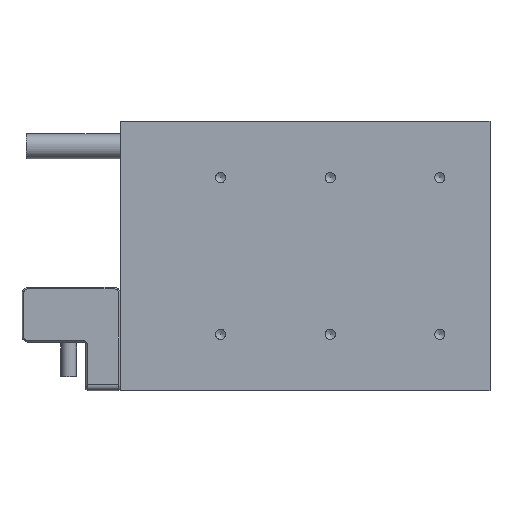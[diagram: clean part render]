
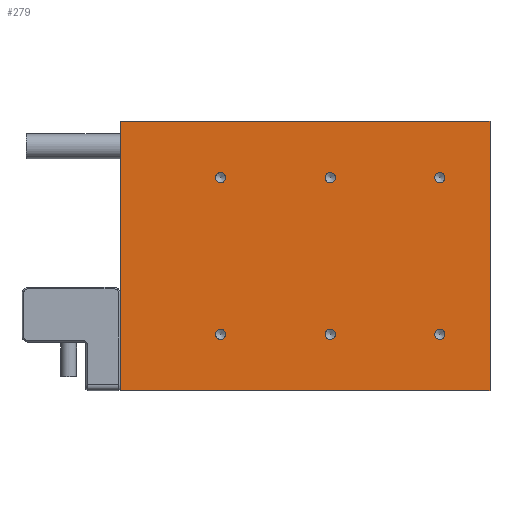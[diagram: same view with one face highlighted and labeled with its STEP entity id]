
A CAD part, front view. The second image highlights one B-rep face of the part: STEP entity #279.
In plain terms, the highlighted planar face has unit normal (0, -1, 0).
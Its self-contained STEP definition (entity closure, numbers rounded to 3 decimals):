
#279 = ADVANCED_FACE( '', ( #568, #569, #570, #571, #572, #573, #574 ), #575, .T. );
#568 = FACE_BOUND( '', #856, .T. );
#569 = FACE_BOUND( '', #857, .T. );
#570 = FACE_BOUND( '', #858, .T. );
#571 = FACE_BOUND( '', #859, .T. );
#572 = FACE_BOUND( '', #860, .T. );
#573 = FACE_BOUND( '', #861, .T. );
#574 = FACE_OUTER_BOUND( '', #862, .T. );
#575 = PLANE( '', #863 );
#856 = EDGE_LOOP( '', ( #1401 ) );
#857 = EDGE_LOOP( '', ( #1402 ) );
#858 = EDGE_LOOP( '', ( #1403 ) );
#859 = EDGE_LOOP( '', ( #1404 ) );
#860 = EDGE_LOOP( '', ( #1405 ) );
#861 = EDGE_LOOP( '', ( #1406 ) );
#862 = EDGE_LOOP( '', ( #1407, #1408, #1409, #1410 ) );
#863 = AXIS2_PLACEMENT_3D( '', #1411, #1412, #1413 );
#1401 = ORIENTED_EDGE( '', *, *, #1547, .T. );
#1402 = ORIENTED_EDGE( '', *, *, #1582, .T. );
#1403 = ORIENTED_EDGE( '', *, *, #1612, .T. );
#1404 = ORIENTED_EDGE( '', *, *, #1666, .T. );
#1405 = ORIENTED_EDGE( '', *, *, #1655, .T. );
#1406 = ORIENTED_EDGE( '', *, *, #1675, .T. );
#1407 = ORIENTED_EDGE( '', *, *, #1642, .T. );
#1408 = ORIENTED_EDGE( '', *, *, #1614, .T. );
#1409 = ORIENTED_EDGE( '', *, *, #1517, .T. );
#1410 = ORIENTED_EDGE( '', *, *, #1601, .T. );
#1411 = CARTESIAN_POINT( '', ( 0., 0., 0. ) );
#1412 = DIRECTION( '', ( 0., -1., 0. ) );
#1413 = DIRECTION( '', ( 0., 0., -1. ) );
#1517 = EDGE_CURVE( '', #1758, #1759, #1760, .T. );
#1547 = EDGE_CURVE( '', #1805, #1805, #1806, .T. );
#1582 = EDGE_CURVE( '', #1856, #1856, #1857, .T. );
#1601 = EDGE_CURVE( '', #1759, #1879, #1880, .T. );
#1612 = EDGE_CURVE( '', #1891, #1891, #1892, .T. );
#1614 = EDGE_CURVE( '', #1894, #1758, #1895, .T. );
#1642 = EDGE_CURVE( '', #1879, #1894, #1931, .T. );
#1655 = EDGE_CURVE( '', #1946, #1946, #1947, .T. );
#1666 = EDGE_CURVE( '', #1960, #1960, #1961, .T. );
#1675 = EDGE_CURVE( '', #1971, #1971, #1972, .T. );
#1758 = VERTEX_POINT( '', #2077 );
#1759 = VERTEX_POINT( '', #2078 );
#1760 = LINE( '', #2079, #2080 );
#1805 = VERTEX_POINT( '', #2133 );
#1806 = CIRCLE( '', #2134, 1.621 );
#1856 = VERTEX_POINT( '', #2196 );
#1857 = CIRCLE( '', #2197, 1.621 );
#1879 = VERTEX_POINT( '', #2228 );
#1880 = LINE( '', #2229, #2230 );
#1891 = VERTEX_POINT( '', #2242 );
#1892 = CIRCLE( '', #2243, 1.621 );
#1894 = VERTEX_POINT( '', #2245 );
#1895 = LINE( '', #2246, #2247 );
#1931 = LINE( '', #2290, #2291 );
#1946 = VERTEX_POINT( '', #2308 );
#1947 = CIRCLE( '', #2309, 1.621 );
#1960 = VERTEX_POINT( '', #2327 );
#1961 = CIRCLE( '', #2328, 1.621 );
#1971 = VERTEX_POINT( '', #2340 );
#1972 = CIRCLE( '', #2341, 1.621 );
#2077 = CARTESIAN_POINT( '', ( 59., 0., -43. ) );
#2078 = CARTESIAN_POINT( '', ( 59., 0., 43. ) );
#2079 = CARTESIAN_POINT( '', ( 59., 0., -43. ) );
#2080 = VECTOR( '', #2407, 1000. );
#2133 = CARTESIAN_POINT( '', ( 43., 0., -26.621 ) );
#2134 = AXIS2_PLACEMENT_3D( '', #2455, #2456, #2457 );
#2196 = CARTESIAN_POINT( '', ( 43., 0., 23.379 ) );
#2197 = AXIS2_PLACEMENT_3D( '', #2503, #2504, #2505 );
#2228 = CARTESIAN_POINT( '', ( -59., 0., 43. ) );
#2229 = CARTESIAN_POINT( '', ( 59., 0., 43. ) );
#2230 = VECTOR( '', #2521, 1000. );
#2242 = CARTESIAN_POINT( '', ( 8., 0., -26.621 ) );
#2243 = AXIS2_PLACEMENT_3D( '', #2529, #2530, #2531 );
#2245 = CARTESIAN_POINT( '', ( -59., 0., -43. ) );
#2246 = CARTESIAN_POINT( '', ( -59., 0., -43. ) );
#2247 = VECTOR( '', #2532, 1000. );
#2290 = CARTESIAN_POINT( '', ( -59., 0., 43. ) );
#2291 = VECTOR( '', #2564, 1000. );
#2308 = CARTESIAN_POINT( '', ( -27., 0., -26.621 ) );
#2309 = AXIS2_PLACEMENT_3D( '', #2573, #2574, #2575 );
#2327 = CARTESIAN_POINT( '', ( 8., 0., 23.379 ) );
#2328 = AXIS2_PLACEMENT_3D( '', #2584, #2585, #2586 );
#2340 = CARTESIAN_POINT( '', ( -27., 0., 23.379 ) );
#2341 = AXIS2_PLACEMENT_3D( '', #2592, #2593, #2594 );
#2407 = DIRECTION( '', ( 0., 0., 1. ) );
#2455 = CARTESIAN_POINT( '', ( 43., 0., -25. ) );
#2456 = DIRECTION( '', ( 0., 1., 0. ) );
#2457 = DIRECTION( '', ( 0., 0., -1. ) );
#2503 = CARTESIAN_POINT( '', ( 43., 0., 25. ) );
#2504 = DIRECTION( '', ( 0., 1., 0. ) );
#2505 = DIRECTION( '', ( 0., 0., -1. ) );
#2521 = DIRECTION( '', ( -1., 0., 0. ) );
#2529 = CARTESIAN_POINT( '', ( 8., 0., -25. ) );
#2530 = DIRECTION( '', ( 0., 1., 0. ) );
#2531 = DIRECTION( '', ( 0., 0., -1. ) );
#2532 = DIRECTION( '', ( 1., 0., 0. ) );
#2564 = DIRECTION( '', ( 0., 0., -1. ) );
#2573 = CARTESIAN_POINT( '', ( -27., 0., -25. ) );
#2574 = DIRECTION( '', ( 0., 1., 0. ) );
#2575 = DIRECTION( '', ( 0., 0., -1. ) );
#2584 = CARTESIAN_POINT( '', ( 8., 0., 25. ) );
#2585 = DIRECTION( '', ( 0., 1., 0. ) );
#2586 = DIRECTION( '', ( 0., 0., -1. ) );
#2592 = CARTESIAN_POINT( '', ( -27., 0., 25. ) );
#2593 = DIRECTION( '', ( 0., 1., 0. ) );
#2594 = DIRECTION( '', ( 0., 0., -1. ) );
